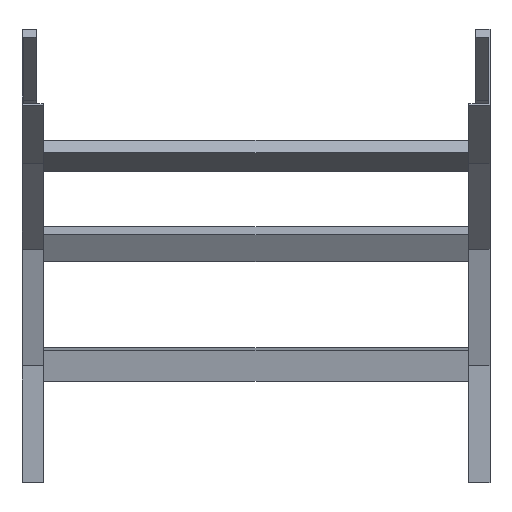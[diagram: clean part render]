
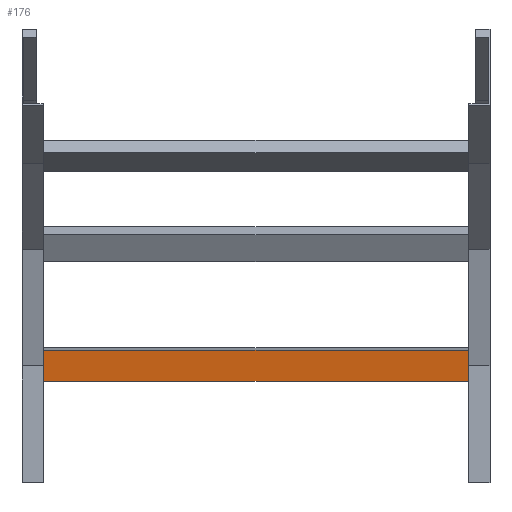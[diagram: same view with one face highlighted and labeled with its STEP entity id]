
A CAD part, front view. The second image highlights one B-rep face of the part: STEP entity #176.
In plain terms, the highlighted planar face has unit normal (0, -0.991, -0.131) as drawn and (0, -1, 0) by its records, which use the part's own axes.
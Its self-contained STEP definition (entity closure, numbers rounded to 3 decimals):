
#19 = CARTESIAN_POINT ( 'NONE',  ( -298., 0., -20.25 ) ) ;
#162 = AXIS2_PLACEMENT_3D ( 'NONE', #1454, #553, #827 ) ;
#176 = ADVANCED_FACE ( 'NONE', ( #1077 ), #304, .F. ) ;
#210 = ORIENTED_EDGE ( 'NONE', *, *, #1403, .T. ) ;
#221 = VERTEX_POINT ( 'NONE', #607 ) ;
#267 = VECTOR ( 'NONE', #747, 1000. ) ;
#304 = PLANE ( 'NONE',  #162 ) ;
#332 = CARTESIAN_POINT ( 'NONE',  ( 298., 0., 20.25 ) ) ;
#553 = DIRECTION ( 'NONE',  ( 0., 1., 0. ) ) ;
#574 = CARTESIAN_POINT ( 'NONE',  ( -298., 0., 20.25 ) ) ;
#598 = LINE ( 'NONE', #1625, #267 ) ;
#607 = CARTESIAN_POINT ( 'NONE',  ( 298., 0., -20.25 ) ) ;
#653 = ORIENTED_EDGE ( 'NONE', *, *, #927, .T. ) ;
#663 = EDGE_CURVE ( 'NONE', #221, #1634, #598, .T. ) ;
#673 = VECTOR ( 'NONE', #1355, 1000. ) ;
#747 = DIRECTION ( 'NONE',  ( -1., 0., 0. ) ) ;
#760 = VECTOR ( 'NONE', #1613, 1000. ) ;
#768 = CARTESIAN_POINT ( 'NONE',  ( 298., 0., 20.25 ) ) ;
#791 = EDGE_LOOP ( 'NONE', ( #653, #1449, #911, #210 ) ) ;
#827 = DIRECTION ( 'NONE',  ( 0., 0., 1. ) ) ;
#839 = LINE ( 'NONE', #1231, #673 ) ;
#849 = LINE ( 'NONE', #574, #760 ) ;
#875 = VERTEX_POINT ( 'NONE', #1629 ) ;
#911 = ORIENTED_EDGE ( 'NONE', *, *, #1341, .F. ) ;
#927 = EDGE_CURVE ( 'NONE', #875, #1634, #849, .T. ) ;
#1077 = FACE_OUTER_BOUND ( 'NONE', #791, .T. ) ;
#1231 = CARTESIAN_POINT ( 'NONE',  ( 298., 0., 20.25 ) ) ;
#1341 = EDGE_CURVE ( 'NONE', #1468, #221, #839, .T. ) ;
#1355 = DIRECTION ( 'NONE',  ( 0., 0., -1. ) ) ;
#1403 = EDGE_CURVE ( 'NONE', #1468, #875, #1536, .T. ) ;
#1449 = ORIENTED_EDGE ( 'NONE', *, *, #663, .F. ) ;
#1454 = CARTESIAN_POINT ( 'NONE',  ( 298., 0., 20.25 ) ) ;
#1468 = VERTEX_POINT ( 'NONE', #768 ) ;
#1528 = DIRECTION ( 'NONE',  ( -1., 0., 0. ) ) ;
#1536 = LINE ( 'NONE', #332, #1678 ) ;
#1613 = DIRECTION ( 'NONE',  ( 0., 0., -1. ) ) ;
#1625 = CARTESIAN_POINT ( 'NONE',  ( 298., 0., -20.25 ) ) ;
#1629 = CARTESIAN_POINT ( 'NONE',  ( -298., 0., 20.25 ) ) ;
#1634 = VERTEX_POINT ( 'NONE', #19 ) ;
#1678 = VECTOR ( 'NONE', #1528, 1000. ) ;
